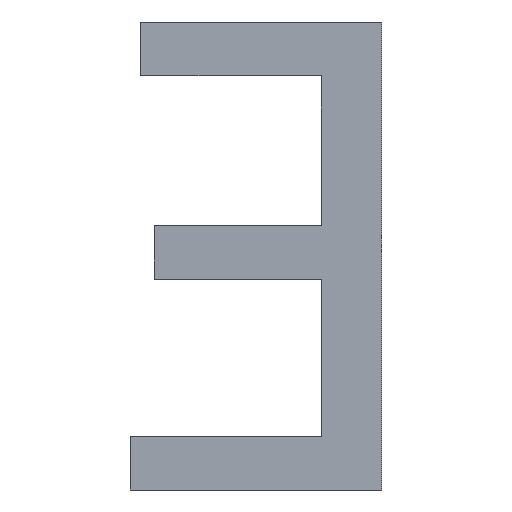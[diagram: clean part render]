
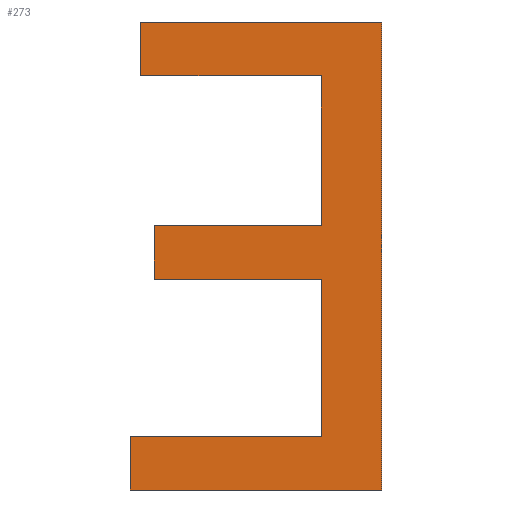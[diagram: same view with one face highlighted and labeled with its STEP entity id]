
A CAD part, left-side view. The second image highlights one B-rep face of the part: STEP entity #273.
In plain terms, the highlighted planar face has unit normal (-1, 0, 0).
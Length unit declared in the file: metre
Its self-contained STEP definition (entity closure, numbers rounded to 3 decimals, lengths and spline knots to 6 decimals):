
#12=ORIENTED_EDGE('',*,*,#84,.F.);
#13=ORIENTED_EDGE('',*,*,#85,.F.);
#14=ORIENTED_EDGE('',*,*,#86,.F.);
#15=ORIENTED_EDGE('',*,*,#87,.F.);
#16=ORIENTED_EDGE('',*,*,#88,.F.);
#17=ORIENTED_EDGE('',*,*,#89,.F.);
#18=ORIENTED_EDGE('',*,*,#90,.F.);
#19=ORIENTED_EDGE('',*,*,#91,.F.);
#20=ORIENTED_EDGE('',*,*,#92,.F.);
#21=ORIENTED_EDGE('',*,*,#93,.F.);
#22=ORIENTED_EDGE('',*,*,#94,.F.);
#23=ORIENTED_EDGE('',*,*,#95,.F.);
#84=EDGE_CURVE('',#120,#121,#144,.T.);
#85=EDGE_CURVE('',#122,#120,#145,.T.);
#86=EDGE_CURVE('',#123,#122,#146,.T.);
#87=EDGE_CURVE('',#124,#123,#147,.T.);
#88=EDGE_CURVE('',#125,#124,#148,.T.);
#89=EDGE_CURVE('',#126,#125,#149,.T.);
#90=EDGE_CURVE('',#127,#126,#150,.T.);
#91=EDGE_CURVE('',#128,#127,#151,.T.);
#92=EDGE_CURVE('',#129,#128,#152,.T.);
#93=EDGE_CURVE('',#130,#129,#153,.T.);
#94=EDGE_CURVE('',#131,#130,#154,.T.);
#95=EDGE_CURVE('',#121,#131,#155,.T.);
#120=VERTEX_POINT('',#467);
#121=VERTEX_POINT('',#468);
#122=VERTEX_POINT('',#470);
#123=VERTEX_POINT('',#472);
#124=VERTEX_POINT('',#474);
#125=VERTEX_POINT('',#476);
#126=VERTEX_POINT('',#478);
#127=VERTEX_POINT('',#480);
#128=VERTEX_POINT('',#482);
#129=VERTEX_POINT('',#484);
#130=VERTEX_POINT('',#486);
#131=VERTEX_POINT('',#488);
#144=LINE('',#466,#180);
#145=LINE('',#469,#181);
#146=LINE('',#471,#182);
#147=LINE('',#473,#183);
#148=LINE('',#475,#184);
#149=LINE('',#477,#185);
#150=LINE('',#479,#186);
#151=LINE('',#481,#187);
#152=LINE('',#483,#188);
#153=LINE('',#485,#189);
#154=LINE('',#487,#190);
#155=LINE('',#489,#191);
#180=VECTOR('',#402,1.);
#181=VECTOR('',#403,1.);
#182=VECTOR('',#404,1.);
#183=VECTOR('',#405,1.);
#184=VECTOR('',#406,1.);
#185=VECTOR('',#407,1.);
#186=VECTOR('',#408,1.);
#187=VECTOR('',#409,1.);
#188=VECTOR('',#410,1.);
#189=VECTOR('',#411,1.);
#190=VECTOR('',#412,1.);
#191=VECTOR('',#413,1.);
#216=EDGE_LOOP('',(#12,#13,#14,#15,#16,#17,#18,#19,#20,#21,#22,#23));
#230=FACE_BOUND('',#216,.T.);
#244=PLANE('',#384);
#273=ADVANCED_FACE('',(#230),#244,.T.);
#384=AXIS2_PLACEMENT_3D('',#465,#400,#401);
#400=DIRECTION('',(-1.,0.,0.));
#401=DIRECTION('',(0.,0.,1.));
#402=DIRECTION('',(0.,0.,1.));
#403=DIRECTION('',(0.,1.,0.));
#404=DIRECTION('',(0.,0.,-1.));
#405=DIRECTION('',(0.,-1.,0.));
#406=DIRECTION('',(0.,0.,1.));
#407=DIRECTION('',(0.,1.,0.));
#408=DIRECTION('',(0.,0.,1.));
#409=DIRECTION('',(0.,-1.,0.));
#410=DIRECTION('',(0.,0.,1.));
#411=DIRECTION('',(0.,1.,0.));
#412=DIRECTION('',(0.,0.,1.));
#413=DIRECTION('',(0.,-1.,0.));
#465=CARTESIAN_POINT('',(-0.056786,-0.006593,0.0092));
#466=CARTESIAN_POINT('',(-0.056786,-0.012182,0.012914));
#467=CARTESIAN_POINT('',(-0.056786,-0.012182,0.012867));
#468=CARTESIAN_POINT('',(-0.056786,-0.012182,0.012914));
#469=CARTESIAN_POINT('',(-0.056786,-0.012182,0.012867));
#470=CARTESIAN_POINT('',(-0.056786,-0.012401,0.012867));
#471=CARTESIAN_POINT('',(-0.056786,-0.012401,0.012867));
#472=CARTESIAN_POINT('',(-0.056786,-0.012401,0.013274));
#473=CARTESIAN_POINT('',(-0.056786,-0.012401,0.013274));
#474=CARTESIAN_POINT('',(-0.056786,-0.012191,0.013274));
#475=CARTESIAN_POINT('',(-0.056786,-0.012191,0.013274));
#476=CARTESIAN_POINT('',(-0.056786,-0.012191,0.013227));
#477=CARTESIAN_POINT('',(-0.056786,-0.012191,0.013227));
#478=CARTESIAN_POINT('',(-0.056786,-0.012348,0.013227));
#479=CARTESIAN_POINT('',(-0.056786,-0.012348,0.013227));
#480=CARTESIAN_POINT('',(-0.056786,-0.012348,0.013097));
#481=CARTESIAN_POINT('',(-0.056786,-0.012348,0.013097));
#482=CARTESIAN_POINT('',(-0.056786,-0.012203,0.013097));
#483=CARTESIAN_POINT('',(-0.056786,-0.012203,0.013097));
#484=CARTESIAN_POINT('',(-0.056786,-0.012203,0.013051));
#485=CARTESIAN_POINT('',(-0.056786,-0.012203,0.013051));
#486=CARTESIAN_POINT('',(-0.056786,-0.012348,0.013051));
#487=CARTESIAN_POINT('',(-0.056786,-0.012348,0.013051));
#488=CARTESIAN_POINT('',(-0.056786,-0.012348,0.012914));
#489=CARTESIAN_POINT('',(-0.056786,-0.012348,0.012914));
